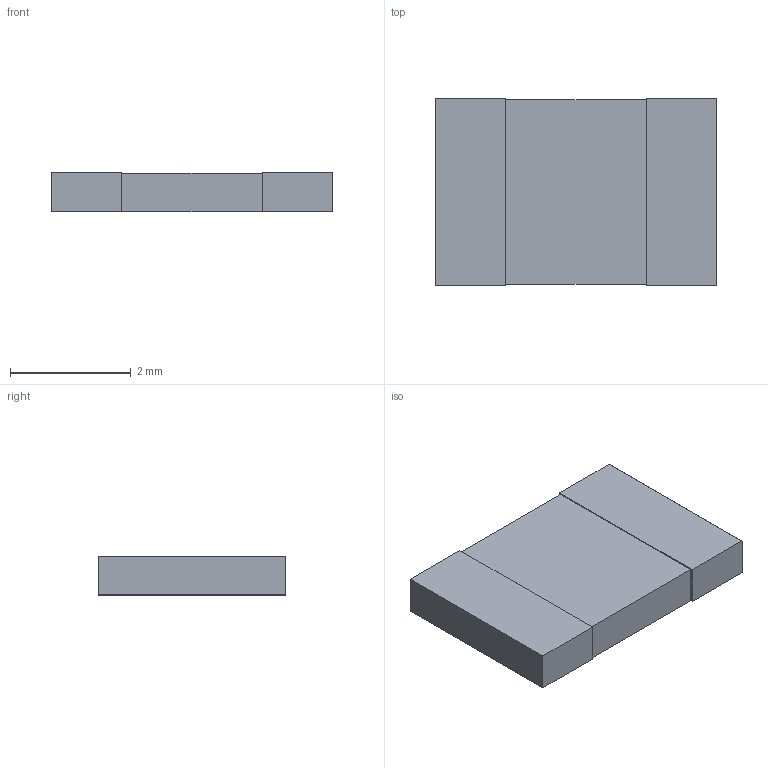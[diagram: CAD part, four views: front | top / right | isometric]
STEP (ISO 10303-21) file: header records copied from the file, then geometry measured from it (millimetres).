
FILE_DESCRIPTION(('FreeCAD Model'),'2;1');
FILE_NAME('Open CASCADE Shape Model','2021-06-29T03:26:45',('Author'),( ''),'Open CASCADE STEP processor 7.5','FreeCAD','Unknown');
FILE_SCHEMA(('AUTOMOTIVE_DESIGN { 1 0 10303 214 1 1 1 1 }'));
Length unit declared in the file: millimetre
Products named in the file (1): intersection
Bounding box: 4.66 x 3.11 x 0.65 mm (x, y, z)
Volume: 9.2 mm3; surface area: 38.9 mm2
Topology: 1 solids, 1 shells, 22 faces, 56 edges, 36 vertices
Faces by surface type: bspline 16, plane 6
Entity records: 1452 total; most frequent: CARTESIAN_POINT 461, B_SPLINE_CURVE_WITH_KNOTS 144, ORIENTED_EDGE 112, PCURVE 112, DEFINITIONAL_REPRESENTATION 112, EDGE_CURVE 56, SURFACE_CURVE 56, DIRECTION 38
